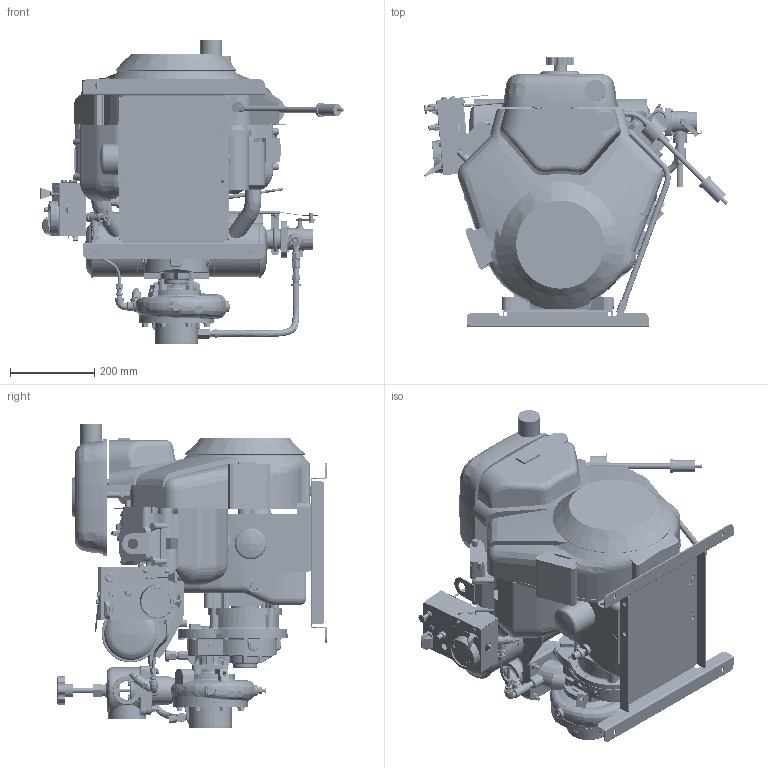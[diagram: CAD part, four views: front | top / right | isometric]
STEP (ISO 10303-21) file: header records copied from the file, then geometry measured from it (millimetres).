
FILE_DESCRIPTION (( 'STEP AP214' ), '1' );
FILE_NAME ('DAD3009.STEP', '2019-01-25T20:50:59', ( '' ), ( '' ), 'SwSTEP 2.0', 'SolidWorks 2018', '' );
FILE_SCHEMA (( 'AUTOMOTIVE_DESIGN' ));
Length unit declared in the file: inch
Products named in the file (119): 5402603; HA00308; 5243001; 5402041; 3603509; 1842903; 3603801; 4004822; 3822102; VK00602; 2605073; 5242300; 2602615; 5400603; PA00633; 1804501; 1080814; 5400624; TE00433; 2602300; 4200521; 1081007; 2050403; 1080946_4464K24; 4229900_PRESSURE TRANSDUCER; 1681804; 5400000; 5328800; 3501578; 1220403_3042T85; 1962102; 4210400; 1881702; 3501636; 2800803; 4404000; 3602433; 5329110; DAD3009; 3601610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
Assembly tree (199 placements, depth 5):
  DAD3009
    4200521
    1681804
    TE00433
      1804501
      3601247_TE00435
      2004703
      1881702
      3300011
      2701410
      3603054
      3602433
      5400624
      3600526
      1721700
      2700710
      3602423
      1721600
      3501636
      3501578  x2
      3501631  x3
      4401810
      3601013
      3603814  x9
      5400658  x9
      5401029  x4
      4401800
    PA00633
      2050403
      3400600  x2
      1080535  x2
      5203600
      3801500
      5402833  x8
      1840100
      1842903
      3601610
      3606103  x4
      5403024  x4
      2901001
      5000608
      3603338
      5403434
      3605202
      3600527
      1081007
      1080404_4464K48
      4229900_PRESSURE TRANSDUCER
    HA00308
      2800660
      5260202
      VK00105
        VK00602
          5242300
          5300103
        3800100
        5280101
        5400603  x2
      5240005
      3800400
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Bounding box: 720.91 x 638.7 x 723.13 mm (x, y, z)
Volume: 55692070.4 mm3; surface area: 4628659.3 mm2
Topology: 217 solids, 238 shells, 12112 faces, 30965 edges, 19497 vertices
Faces by surface type: plane 4753, cylinder 3311, cone 1713, bspline 1631, torus 617, sphere 87
Entity records: 499406 total; most frequent: CARTESIAN_POINT 241186, ORIENTED_EDGE 53378, DIRECTION 46266, EDGE_CURVE 26726, VERTEX_POINT 17065, AXIS2_PLACEMENT_3D 16806, LINE 12654, VECTOR 12654
